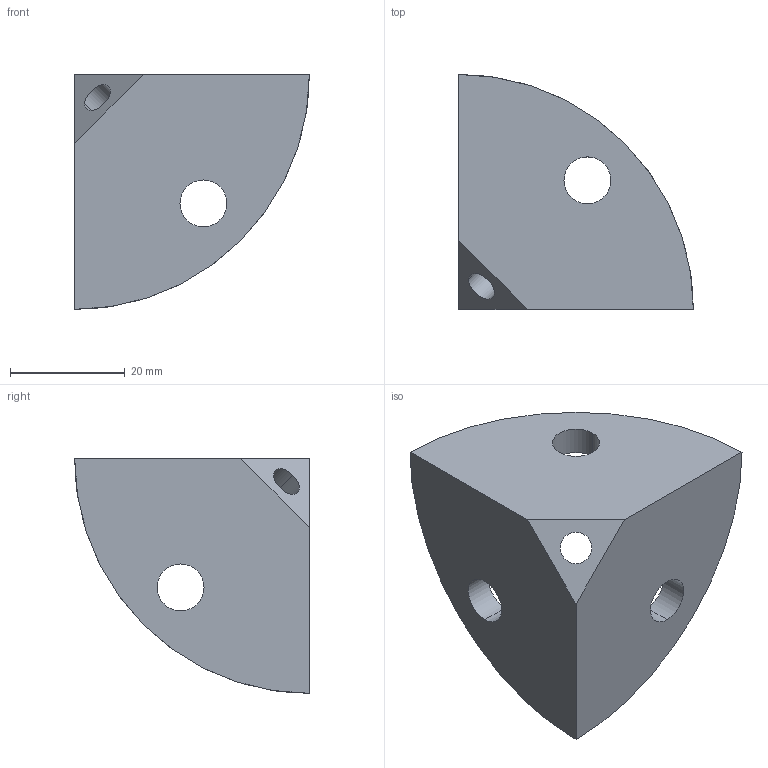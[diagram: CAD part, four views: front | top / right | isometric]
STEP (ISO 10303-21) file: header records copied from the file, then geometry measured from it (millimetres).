
FILE_DESCRIPTION((''),'2;1');
FILE_NAME('GIS045R_1','2002-12-27T',('Lipro doo'),('Lipro d.o.o.'),'PRO/ENGINEER BY PARAMETRIC TECHNOLOGY CORPORATION, 2001150','PRO/ENGINEER BY PARAMETRIC TECHNOLOGY CORPORATION, 2001150','');
FILE_SCHEMA(('CONFIG_CONTROL_DESIGN'));
Length unit declared in the file: millimetre
Products named in the file (1): GIS045R_1
Bounding box: 41 x 41 x 41 mm (x, y, z)
Volume: 16029.3 mm3; surface area: 7634 mm2
Topology: 1 solids, 1 shells, 19 faces, 45 edges, 28 vertices
Faces by surface type: cylinder 11, plane 8
Entity records: 613 total; most frequent: CARTESIAN_POINT 104, DIRECTION 102, ORIENTED_EDGE 90, EDGE_CURVE 45, AXIS2_PLACEMENT_3D 41, VERTEX_POINT 28, EDGE_LOOP 27, CIRCLE 22
